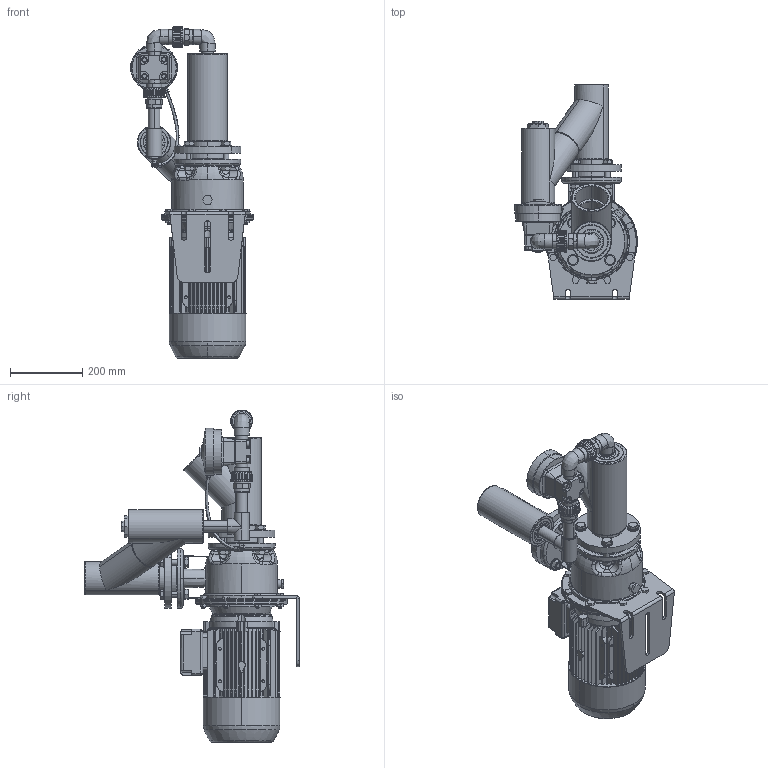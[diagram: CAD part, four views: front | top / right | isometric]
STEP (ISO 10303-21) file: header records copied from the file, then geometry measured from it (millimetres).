
FILE_DESCRIPTION (( 'STEP AP203' ), '1' );
FILE_NAME ('Lowara SHE 50-160 z.a.z auto. by-pass.STEP', '2011-04-07T07:40:36', ( '' ), ( '' ), 'SwSTEP 2.0', 'SolidWorks 2010', '' );
FILE_SCHEMA (( 'CONFIG_CONTROL_DESIGN' ));
Length unit declared in the file: millimetre
Products named in the file (1): Lowara SHE 50-160 z.a.z auto. by-pass
Bounding box: 340 x 595 x 919.45 mm (x, y, z)
Volume: 23495120.2 mm3; surface area: 2442336.8 mm2
Topology: 67 solids, 69 shells, 2907 faces, 7291 edges, 4550 vertices
Faces by surface type: plane 1082, cylinder 917, cone 480, bspline 380, torus 48
Entity records: 121131 total; most frequent: CARTESIAN_POINT 55509, ORIENTED_EDGE 14392, DIRECTION 12788, EDGE_CURVE 7196, AXIS2_PLACEMENT_3D 5065, VERTEX_POINT 4550, EDGE_LOOP 3198, ADVANCED_FACE 2907
